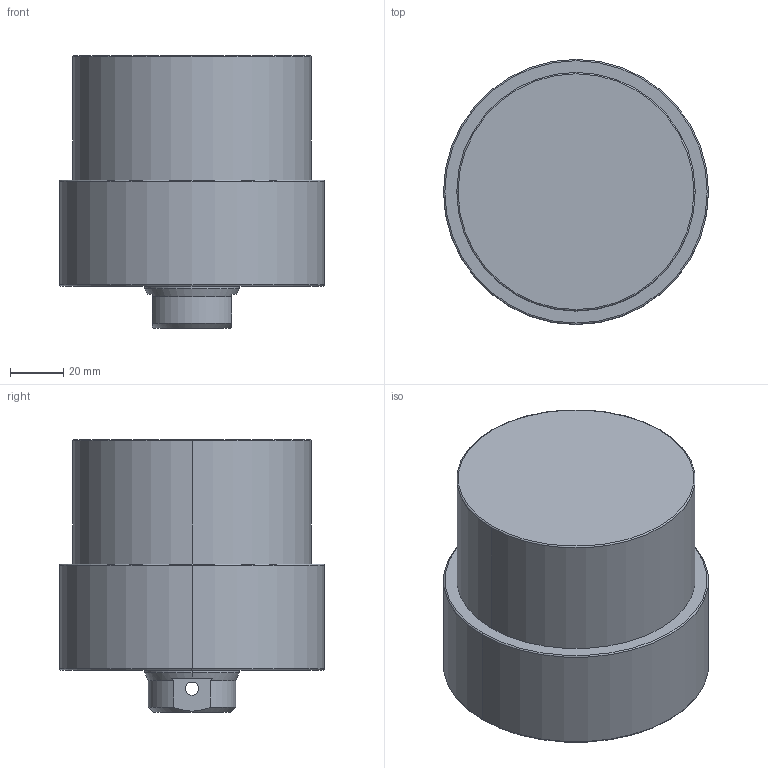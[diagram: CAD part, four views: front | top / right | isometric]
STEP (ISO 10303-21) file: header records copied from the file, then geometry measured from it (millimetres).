
FILE_DESCRIPTION (( 'STEP AP203' ), '1' );
FILE_NAME ('CLLU-090GB-025.STEP', '2020-01-11T00:53:04', ( '' ), ( '' ), 'SwSTEP 2.0', 'SolidWorks 2015', '' );
FILE_SCHEMA (( 'CONFIG_CONTROL_DESIGN' ));
Length unit declared in the file: millimetre
Products named in the file (1): CLLU-090GB-025
Bounding box: 100 x 100 x 103 mm (x, y, z)
Volume: 608460.9 mm3; surface area: 48261.5 mm2
Topology: 1 solids, 1 shells, 66 faces, 154 edges, 87 vertices
Faces by surface type: cylinder 26, cone 24, plane 10, torus 6
Entity records: 2029 total; most frequent: CARTESIAN_POINT 458, DIRECTION 342, ORIENTED_EDGE 288, EDGE_CURVE 144, AXIS2_PLACEMENT_3D 143, VERTEX_POINT 87, EDGE_LOOP 77, CIRCLE 76
